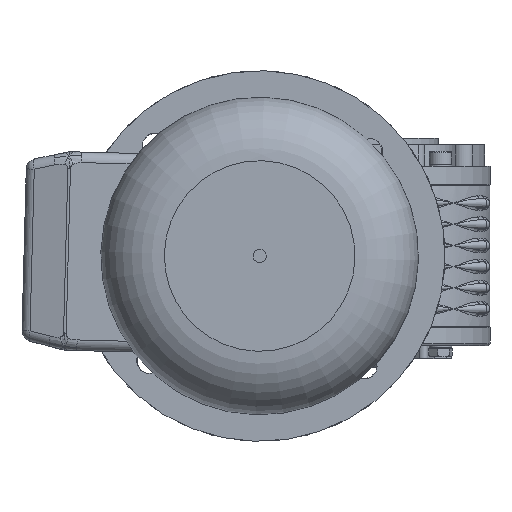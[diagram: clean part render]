
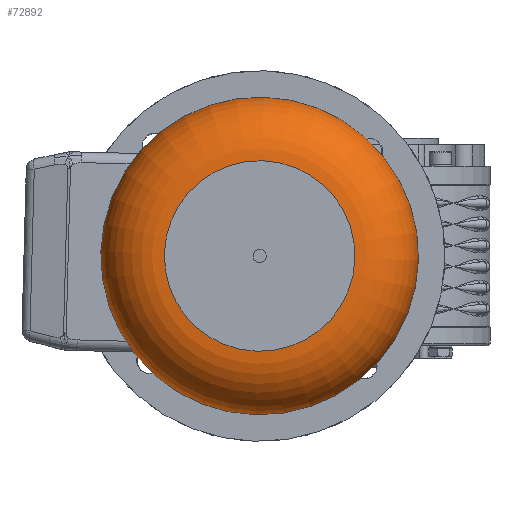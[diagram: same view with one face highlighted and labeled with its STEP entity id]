
A CAD part, left-side view. The second image highlights one B-rep face of the part: STEP entity #72892.
In plain terms, the highlighted toroidal (fillet/blend) face has major radius 36 mm and minor radius 24 mm.
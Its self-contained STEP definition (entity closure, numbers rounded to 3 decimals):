
#72865=CARTESIAN_POINT('',(236.0,0.0,0.0));
#72866=DIRECTION('',(1.0,0.0,0.0));
#72867=DIRECTION('',(0.0,0.0,-1.0));
#72868=AXIS2_PLACEMENT_3D('',#72865,#72866,#72867);
#72869=TOROIDAL_SURFACE('',#72868,36.,24.0);
#72870=CARTESIAN_POINT('',(260.,36.,0.0));
#72871=VERTEX_POINT('',#72870);
#72872=CARTESIAN_POINT('',(260.,0.0,0.0));
#72873=DIRECTION('',(1.0,0.0,0.0));
#72874=DIRECTION('',(0.0,1.0,0.0));
#72875=AXIS2_PLACEMENT_3D('',#72872,#72873,#72874);
#72876=CIRCLE('',#72875,36.);
#72877=EDGE_CURVE('',#72871,#72871,#72876,.T.);
#72878=ORIENTED_EDGE('',*,*,#72877,.F.);
#72879=EDGE_LOOP('',(#72878));
#72880=FACE_OUTER_BOUND('',#72879,.T.);
#72881=CARTESIAN_POINT('',(236.0,60.0,0.0));
#72882=VERTEX_POINT('',#72881);
#72883=CARTESIAN_POINT('',(236.0,0.0,0.0));
#72884=DIRECTION('',(1.0,0.0,0.0));
#72885=DIRECTION('',(0.0,1.0,0.0));
#72886=AXIS2_PLACEMENT_3D('',#72883,#72884,#72885);
#72887=CIRCLE('',#72886,60.0);
#72888=EDGE_CURVE('',#72882,#72882,#72887,.T.);
#72889=ORIENTED_EDGE('',*,*,#72888,.T.);
#72890=EDGE_LOOP('',(#72889));
#72891=FACE_BOUND('',#72890,.T.);
#72892=ADVANCED_FACE('',(#72880,#72891),#72869,.T.);
